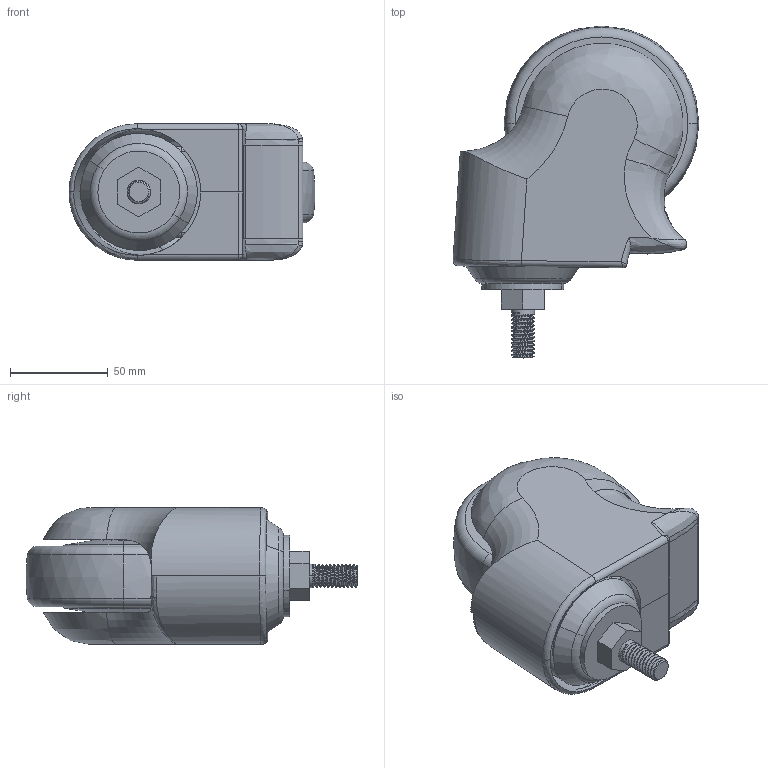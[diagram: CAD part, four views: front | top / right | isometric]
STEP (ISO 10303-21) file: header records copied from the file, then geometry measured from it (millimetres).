
FILE_DESCRIPTION((''),'2;1');
FILE_NAME('E5734-57_ASM','2022-10-31T',('lenovo'),(''),'PRO/ENGINEER BY PARAMETRIC TECHNOLOGY CORPORATION, 2010280','PRO/ENGINEER BY PARAMETRIC TECHNOLOGY CORPORATION, 2010280','');
FILE_SCHEMA(('CONFIG_CONTROL_DESIGN'));
Length unit declared in the file: millimetre
Products named in the file (12): 574-11A; 574-957; 574-69; 574-57_ASM; 570-03A; 570-08; E574-23; E574-6311; E574-6321; E574-6301; E574-6301_ASM; E5734-57_ASM
Assembly tree (12 placements, depth 3):
  E5734-57_ASM
    574-11A
    574-57_ASM
      574-957
      574-69  x2
    570-03A
    570-08
    E574-23
    E574-6301_ASM
      E574-6311
      E574-6321
      E574-6301
Bounding box: 125.96 x 170.06 x 70 mm (x, y, z)
Volume: 318201.6 mm3; surface area: 159636.1 mm2
Topology: 10 solids, 10 shells, 545 faces, 1304 edges, 821 vertices
Faces by surface type: cylinder 198, plane 164, torus 99, bspline 51, cone 31, sphere 2
Entity records: 21787 total; most frequent: CARTESIAN_POINT 9750, DIRECTION 2493, ORIENTED_EDGE 2460, EDGE_CURVE 1230, AXIS2_PLACEMENT_3D 1007, VERTEX_POINT 779, EDGE_LOOP 571, CIRCLE 519
